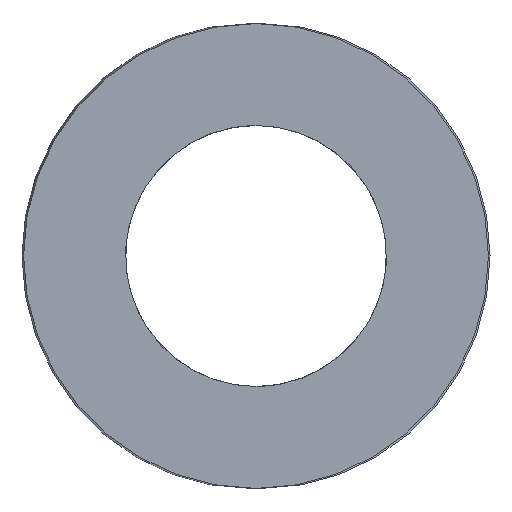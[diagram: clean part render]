
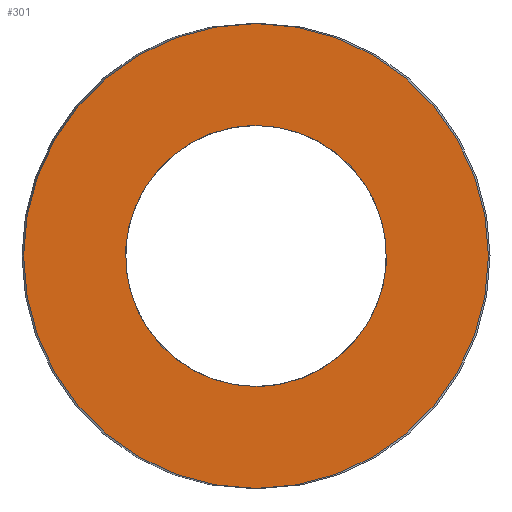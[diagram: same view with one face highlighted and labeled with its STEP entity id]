
A CAD part, left-side view. The second image highlights one B-rep face of the part: STEP entity #301.
In plain terms, the highlighted planar face has unit normal (-1, 0, 0).
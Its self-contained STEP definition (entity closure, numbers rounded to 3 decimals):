
#63=CARTESIAN_POINT('Vertex',(0.,15.5,0.)) ;
#77=CARTESIAN_POINT('Vertex',(0.,-15.5,0.)) ;
#80=CARTESIAN_POINT('Axis2P3D Location',(0.,0.,0.)) ;
#97=CARTESIAN_POINT('Axis2P3D Location',(0.,0.,0.)) ;
#232=CARTESIAN_POINT('Axis2P3D Location',(0.,7.75,0.)) ;
#242=CARTESIAN_POINT('Control Point',(0.,0.,-8.7)) ;
#243=CARTESIAN_POINT('Control Point',(0.,0.867,-8.7)) ;
#244=CARTESIAN_POINT('Control Point',(0.,1.734,-8.592)) ;
#245=CARTESIAN_POINT('Control Point',(0.,2.583,-8.376)) ;
#246=CARTESIAN_POINT('Control Point',(0.,4.209,-7.737)) ;
#247=CARTESIAN_POINT('Control Point',(0.,5.629,-6.719)) ;
#248=CARTESIAN_POINT('Control Point',(0.,6.272,-6.123)) ;
#249=CARTESIAN_POINT('Control Point',(0.,7.395,-4.785)) ;
#250=CARTESIAN_POINT('Control Point',(0.,8.156,-3.211)) ;
#251=CARTESIAN_POINT('Control Point',(0.,8.436,-2.381)) ;
#252=CARTESIAN_POINT('Control Point',(0.,8.783,-0.669)) ;
#253=CARTESIAN_POINT('Control Point',(0.,8.699,1.077)) ;
#254=CARTESIAN_POINT('Control Point',(0.,8.548,1.94)) ;
#255=CARTESIAN_POINT('Control Point',(0.,8.034,3.61)) ;
#256=CARTESIAN_POINT('Control Point',(0.,7.127,5.103)) ;
#257=CARTESIAN_POINT('Control Point',(0.,6.581,5.789)) ;
#258=CARTESIAN_POINT('Control Point',(0.,5.332,7.011)) ;
#259=CARTESIAN_POINT('Control Point',(0.,3.821,7.888)) ;
#260=CARTESIAN_POINT('Control Point',(0.,3.015,8.231)) ;
#261=CARTESIAN_POINT('Control Point',(0.,1.918,8.541)) ;
#262=CARTESIAN_POINT('Control Point',(0.,0.793,8.67)) ;
#263=CARTESIAN_POINT('Control Point',(0.,0.529,8.69)) ;
#264=CARTESIAN_POINT('Control Point',(0.,0.264,8.7)) ;
#265=CARTESIAN_POINT('Control Point',(0.,0.,8.7)) ;
#266=CARTESIAN_POINT('Vertex',(0.,0.,-8.7)) ;
#268=CARTESIAN_POINT('Vertex',(0.,0.,8.7)) ;
#272=CARTESIAN_POINT('Control Point',(0.,0.,8.7)) ;
#273=CARTESIAN_POINT('Control Point',(0.,-0.867,8.7)) ;
#274=CARTESIAN_POINT('Control Point',(0.,-1.734,8.592)) ;
#275=CARTESIAN_POINT('Control Point',(0.,-2.583,8.376)) ;
#276=CARTESIAN_POINT('Control Point',(0.,-4.209,7.737)) ;
#277=CARTESIAN_POINT('Control Point',(0.,-5.629,6.719)) ;
#278=CARTESIAN_POINT('Control Point',(0.,-6.272,6.123)) ;
#279=CARTESIAN_POINT('Control Point',(0.,-7.395,4.785)) ;
#280=CARTESIAN_POINT('Control Point',(0.,-8.156,3.211)) ;
#281=CARTESIAN_POINT('Control Point',(0.,-8.436,2.381)) ;
#282=CARTESIAN_POINT('Control Point',(0.,-8.783,0.669)) ;
#283=CARTESIAN_POINT('Control Point',(0.,-8.699,-1.077)) ;
#284=CARTESIAN_POINT('Control Point',(0.,-8.548,-1.94)) ;
#285=CARTESIAN_POINT('Control Point',(0.,-8.034,-3.61)) ;
#286=CARTESIAN_POINT('Control Point',(0.,-7.127,-5.103)) ;
#287=CARTESIAN_POINT('Control Point',(0.,-6.581,-5.789)) ;
#288=CARTESIAN_POINT('Control Point',(0.,-5.332,-7.011)) ;
#289=CARTESIAN_POINT('Control Point',(0.,-3.821,-7.888)) ;
#290=CARTESIAN_POINT('Control Point',(0.,-3.015,-8.231)) ;
#291=CARTESIAN_POINT('Control Point',(0.,-1.918,-8.541)) ;
#292=CARTESIAN_POINT('Control Point',(0.,-0.793,-8.67)) ;
#293=CARTESIAN_POINT('Control Point',(0.,-0.529,-8.69)) ;
#294=CARTESIAN_POINT('Control Point',(0.,-0.264,-8.7)) ;
#295=CARTESIAN_POINT('Control Point',(0.,0.,-8.7)) ;
#81=DIRECTION('Axis2P3D Direction',(1.,-0.,0.)) ;
#98=DIRECTION('Axis2P3D Direction',(1.,-0.,0.)) ;
#233=DIRECTION('Axis2P3D Direction',(-1.,0.,0.)) ;
#234=DIRECTION('Axis2P3D XDirection',(0.,1.,0.)) ;
#82=AXIS2_PLACEMENT_3D('Circle Axis2P3D',#80,#81,$) ;
#99=AXIS2_PLACEMENT_3D('Circle Axis2P3D',#97,#98,$) ;
#235=AXIS2_PLACEMENT_3D('Plane Axis2P3D',#232,#233,#234) ;
#238=ORIENTED_EDGE('',*,*,#84,.T.) ;
#239=ORIENTED_EDGE('',*,*,#101,.T.) ;
#298=ORIENTED_EDGE('',*,*,#270,.T.) ;
#299=ORIENTED_EDGE('',*,*,#296,.T.) ;
#300=FACE_BOUND('',#297,.T.) ;
#301=ADVANCED_FACE('392-B32-038',(#240,#300),#236,.T.) ;
#241=B_SPLINE_CURVE_WITH_KNOTS('',5,(#242,#243,#244,#245,#246,#247,#248,#249,#250,#251,#252,#253,#254,#255,#256,#257,#258,#259,#260,#261,#262,#263,#264,#265),.UNSPECIFIED.,.F.,.U.,(6,3,3,3,3,3,3,6),(0.,6.131,12.261,18.392,24.522,30.653,36.783,38.652),.UNSPECIFIED.) ;
#271=B_SPLINE_CURVE_WITH_KNOTS('',5,(#272,#273,#274,#275,#276,#277,#278,#279,#280,#281,#282,#283,#284,#285,#286,#287,#288,#289,#290,#291,#292,#293,#294,#295),.UNSPECIFIED.,.F.,.U.,(6,3,3,3,3,3,3,6),(0.,6.131,12.261,18.392,24.522,30.653,36.783,38.652),.UNSPECIFIED.) ;
#83=CIRCLE('generated circle',#82,15.5) ;
#100=CIRCLE('generated circle',#99,15.5) ;
#84=EDGE_CURVE('',#64,#78,#83,.F.) ;
#101=EDGE_CURVE('',#78,#64,#100,.F.) ;
#270=EDGE_CURVE('',#267,#269,#241,.T.) ;
#296=EDGE_CURVE('',#269,#267,#271,.T.) ;
#237=EDGE_LOOP('',(#238,#239)) ;
#297=EDGE_LOOP('',(#298,#299)) ;
#240=FACE_OUTER_BOUND('',#237,.T.) ;
#236=PLANE('Plane',#235) ;
#64=VERTEX_POINT('',#63) ;
#78=VERTEX_POINT('',#77) ;
#267=VERTEX_POINT('',#266) ;
#269=VERTEX_POINT('',#268) ;
